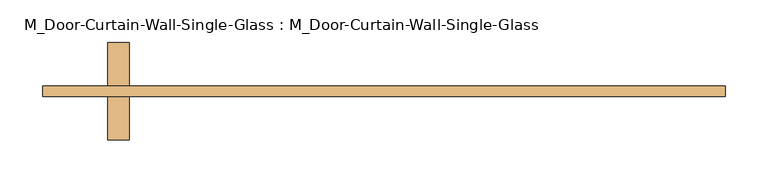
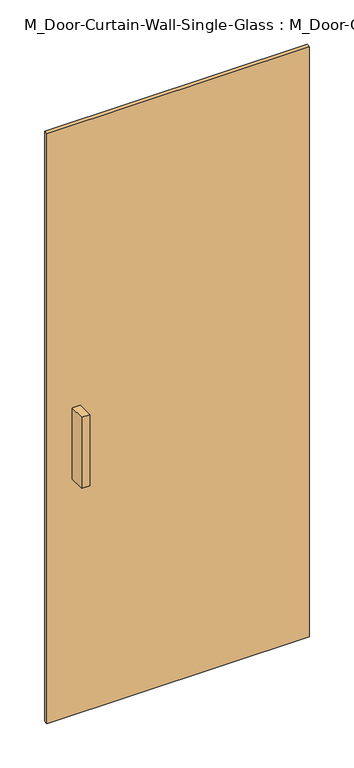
"""IFC4 building model written with IfcOpenShell, lengths in millimetres: door geometry, M_Door-Curtain-Wall-Single-Glass : M_Door-Curtain-Wall-Single-Glass."""

from ifc_helpers import new_model, si_unit, frame, origin, origin_with_axes, place, context, project, spatial, polyline, outline, extrude, source, transform, mapped, element, save


def m_door_curtain_wall_single_glass_m_door_curtain_wall_single_5ee6a53d(model_context):
    return source(origin(), model_context, "Body", "SweptSolid", [
        extrude(outline(polyline([(400.0, 50.8), (400.0, 38.1), (-400.0, 38.1), (-400.0, 50.8), (400.0, 50.8)])), origin_with_axes(), (0.0, 0.0, 1.0), 1900.0),
        extrude(outline(polyline([(-298.4, -12.7), (-323.8, -12.7), (-323.8, 38.1), (-298.4, 38.1), (-298.4, -12.7)])), frame((0.0, 0.0, 762.0), z_axis=(0.0, 0.0, 1.0), x_axis=(1.0, 0.0, 0.0)), (0.0, 0.0, 1.0), 228.6),
        extrude(outline(polyline([(-323.8, 101.6), (-298.4, 101.6), (-298.4, 50.8), (-323.8, 50.8), (-323.8, 101.6)])), frame((0.0, 0.0, 762.0), z_axis=(0.0, 0.0, 1.0), x_axis=(1.0, 0.0, 0.0)), (0.0, 0.0, 1.0), 228.6),
    ])


if __name__ == "__main__":
    model = new_model("IFC4")
    model_context = context("Model", 3, world=origin())
    ifc_project = project(units=[si_unit("LENGTHUNIT", "METRE", prefix="MILLI")], contexts=[model_context])
    site = spatial("IfcSite", under=ifc_project)
    building = spatial("IfcBuilding", under=site)
    placement = place(None, origin())
    m_door_curtain_wall_single_glass_m_door_curtain_wall_single_shape = m_door_curtain_wall_single_glass_m_door_curtain_wall_single_5ee6a53d(model_context)
    element("IfcDoor", 1, ObjectType="M_Door-Curtain-Wall-Single-Glass : M_Door-Curtain-Wall-Single-Glass", at=placement, inside=building, context=model_context, shape_type="MappedRepresentation", body=[
        mapped(m_door_curtain_wall_single_glass_m_door_curtain_wall_single_shape, transform((0.0, 0.0, 0.0), x_axis=(1.0, 0.0, 0.0), y_axis=(0.0, 1.0, 0.0), z_axis=(0.0, 0.0, 1.0))),
    ])
    save(model, "model.ifc")
